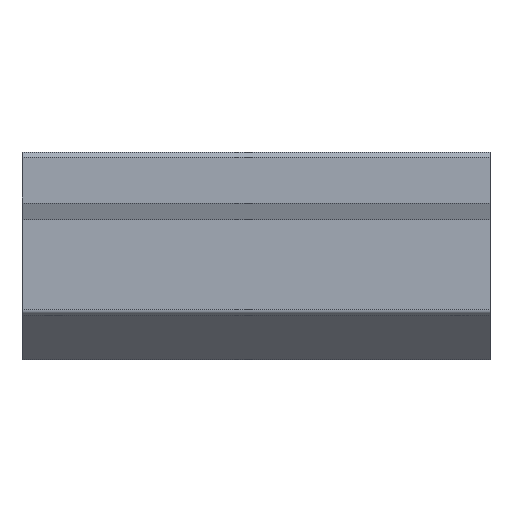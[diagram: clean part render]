
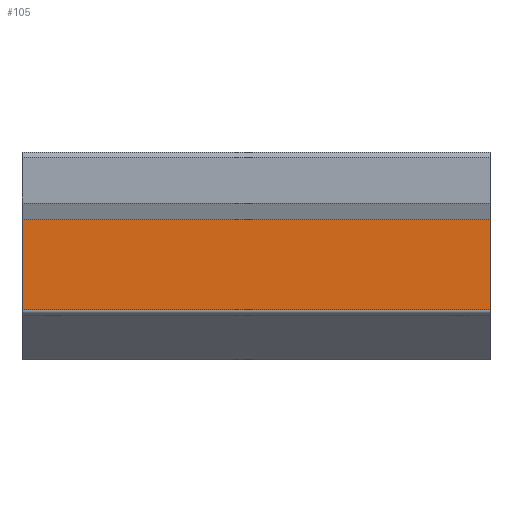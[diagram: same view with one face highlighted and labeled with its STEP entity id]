
A CAD part, front view. The second image highlights one B-rep face of the part: STEP entity #105.
In plain terms, the highlighted planar face has unit normal (0, -1, 0).
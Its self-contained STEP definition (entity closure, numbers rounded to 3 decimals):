
#105 = ADVANCED_FACE( '', ( #236 ), #237, .T. );
#236 = FACE_OUTER_BOUND( '', #399, .T. );
#237 = PLANE( '', #400 );
#399 = EDGE_LOOP( '', ( #630, #631, #632, #633 ) );
#400 = AXIS2_PLACEMENT_3D( '', #634, #635, #636 );
#630 = ORIENTED_EDGE( '', *, *, #927, .T. );
#631 = ORIENTED_EDGE( '', *, *, #910, .T. );
#632 = ORIENTED_EDGE( '', *, *, #928, .T. );
#633 = ORIENTED_EDGE( '', *, *, #929, .F. );
#634 = CARTESIAN_POINT( '', ( 0., -58., -25.5 ) );
#635 = DIRECTION( '', ( 0., -1., 0. ) );
#636 = DIRECTION( '', ( 0., 0., -1. ) );
#910 = EDGE_CURVE( '', #1084, #1088, #1090, .F. );
#927 = EDGE_CURVE( '', #1117, #1084, #1118, .T. );
#928 = EDGE_CURVE( '', #1088, #1119, #1120, .T. );
#929 = EDGE_CURVE( '', #1117, #1119, #1121, .T. );
#1084 = VERTEX_POINT( '', #1321 );
#1088 = VERTEX_POINT( '', #1326 );
#1090 = LINE( '', #1328, #1329 );
#1117 = VERTEX_POINT( '', #1363 );
#1118 = LINE( '', #1364, #1365 );
#1119 = VERTEX_POINT( '', #1366 );
#1120 = LINE( '', #1367, #1368 );
#1121 = LINE( '', #1369, #1370 );
#1321 = CARTESIAN_POINT( '', ( 0., -58., -25.5 ) );
#1326 = CARTESIAN_POINT( '', ( 230., -58., -25.5 ) );
#1328 = CARTESIAN_POINT( '', ( 110., -58., -25.5 ) );
#1329 = VECTOR( '', #1544, 1000. );
#1363 = CARTESIAN_POINT( '', ( 0., -58., 18.758 ) );
#1364 = CARTESIAN_POINT( '', ( 0., -58., 18.758 ) );
#1365 = VECTOR( '', #1564, 1000. );
#1366 = CARTESIAN_POINT( '', ( 230., -58., 18.758 ) );
#1367 = CARTESIAN_POINT( '', ( 230., -58., 18.758 ) );
#1368 = VECTOR( '', #1565, 1000. );
#1369 = CARTESIAN_POINT( '', ( 0., -58., 18.758 ) );
#1370 = VECTOR( '', #1566, 1000. );
#1544 = DIRECTION( '', ( -1., 0., 0. ) );
#1564 = DIRECTION( '', ( 0., 0., -1. ) );
#1565 = DIRECTION( '', ( 0., 0., 1. ) );
#1566 = DIRECTION( '', ( 1., 0., 0. ) );
